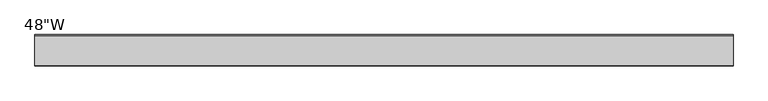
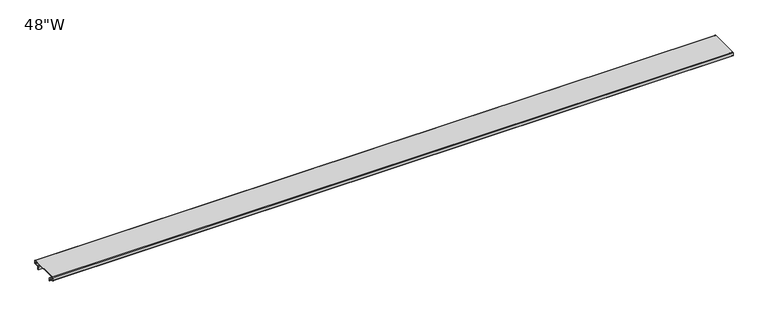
"""IFC4 building model written with IfcOpenShell, lengths in millimetres: furniture geometry."""

import ifcopenshell
import ifcopenshell.guid

model = None  # the IFC model being written
_history = None  # IfcOwnerHistory: only IFC2X3 demands one
_inside = {}  # id of a spatial element -> (the spatial element, [elements in it])
_under = {}  # id of a project, library or spatial element -> (it, [spatial elements below it])
_declared = {}  # id of a project -> (the project, [libraries it declares])
_typed = {}  # id of a type object -> (the type object, [elements of that type])
_made_of = {}  # id of a material, layer set ... -> (it, [elements and type objects made of it])


def new_model(schema):
    """Start an empty IFC model of exactly this schema.

    Asked for "IFC4X3", IfcOpenShell would pick the latest addendum, in which some entities
    have other attributes; the version numbers below select the first issue.
    IFC2X3 requires an IfcOwnerHistory on every rooted entity: one is made here for all.
    """
    global model, _history
    if schema == "IFC4X3":
        model = ifcopenshell.file(schema_version=(4, 3, 0, 0))
    else:
        model = ifcopenshell.file(schema=schema)
    _inside.clear()
    _under.clear()
    _declared.clear()
    _typed.clear()
    _made_of.clear()
    _history = None
    if model.schema == "IFC2X3":
        org = make("IfcOrganization", Name="unknown")
        user = make(
            "IfcPersonAndOrganization",
            ThePerson=make("IfcPerson", FamilyName="unknown"),
            TheOrganization=org,
        )
        app = make(
            "IfcApplication",
            ApplicationDeveloper=org,
            Version="unknown",
            ApplicationFullName="unknown",
            ApplicationIdentifier="unknown",
        )
        _history = make(
            "IfcOwnerHistory",
            OwningUser=user,
            OwningApplication=app,
            ChangeAction="ADDED",
            CreationDate=0,
        )
    return model


def make(cls, **values):
    """One entity of the class cls with the attributes given. An attribute that is None is left unset."""
    return model.create_entity(
        cls, **{name: value for name, value in values.items() if value is not None}
    )


def rooted(cls, **values):
    """An entity with a GlobalId (a new one), such as an element, a storey or a relation."""
    return make(cls, GlobalId=ifcopenshell.guid.new(), OwnerHistory=_history, **values)


def si_unit(unit_type, name, prefix=None):
    """IfcSIUnit, for example si_unit("LENGTHUNIT", "METRE", prefix="MILLI")."""
    return make("IfcSIUnit", UnitType=unit_type, Prefix=prefix, Name=name)


def assignment(units):
    """IfcUnitAssignment: the units of a project."""
    return None if units is None else make("IfcUnitAssignment", Units=units)


def point(xyz):
    """IfcCartesianPoint."""
    return None if xyz is None else make("IfcCartesianPoint", Coordinates=xyz)


def direction(xyz):
    """IfcDirection."""
    return None if xyz is None else make("IfcDirection", DirectionRatios=xyz)


def frame(location, z_axis=None, x_axis=None):
    """IfcAxis2Placement3D, a coordinate frame: its origin and axes. An axis left out is left unset."""
    return make(
        "IfcAxis2Placement3D",
        Location=point(location),
        Axis=direction(z_axis),
        RefDirection=direction(x_axis),
    )


def frame_2d(location, x_axis=None):
    """IfcAxis2Placement2D, a coordinate frame in the plane: its origin and x axis."""
    return make(
        "IfcAxis2Placement2D", Location=point(location), RefDirection=direction(x_axis)
    )


def origin():
    """The frame at (0, 0, 0) with its axes left unset."""
    return frame((0.0, 0.0, 0.0))


def place(relative_to, where):
    """IfcLocalPlacement: puts the frame where relative to a parent placement (None: the world)."""
    return make(
        "IfcLocalPlacement", PlacementRelTo=relative_to, RelativePlacement=where
    )


def context(
    kind, dimensions, precision=None, world=None, true_north=None, identifier=None
):
    """IfcGeometricRepresentationContext, for example the 3D "Model" context."""
    return make(
        "IfcGeometricRepresentationContext",
        ContextIdentifier=identifier,
        ContextType=kind,
        CoordinateSpaceDimension=dimensions,
        Precision=precision,
        WorldCoordinateSystem=world,
        TrueNorth=true_north,
    )


def project(units=None, contexts=None):
    """IfcProject with its units and contexts."""
    return rooted(
        "IfcProject",
        Name="project",
        RepresentationContexts=contexts,
        UnitsInContext=assignment(units),
    )


def spatial(cls, under=None, at=None, **own):
    """A site, building, storey or space (cls), placed at a placement, below another one or the project."""
    s = rooted(cls, ObjectPlacement=at, **own)
    if under is not None:
        _under.setdefault(under.id(), (under, []))[1].append(s)
    return s


def polyline(points):
    """IfcPolyline through the points."""
    return make("IfcPolyline", Points=[point(p) for p in points])


def circle_curve(where, radius):
    """IfcCircle in the frame where."""
    return make("IfcCircle", Position=where, Radius=radius)


def trimmed(basis, trim1, trim2, sense, master):
    """IfcTrimmedCurve: the piece of a basis curve between two trims."""
    return make(
        "IfcTrimmedCurve",
        BasisCurve=basis,
        Trim1=trim1,
        Trim2=trim2,
        SenseAgreement=sense,
        MasterRepresentation=master,
    )


def segment(curve, same_sense, transition):
    """IfcCompositeCurveSegment."""
    return make(
        "IfcCompositeCurveSegment",
        Transition=transition,
        SameSense=same_sense,
        ParentCurve=curve,
    )


def composite_curve(segments, self_intersect=None):
    """IfcCompositeCurve: segments joined end to end."""
    return make("IfcCompositeCurve", Segments=segments, SelfIntersect=self_intersect)


def outline(outer, holes=None, kind="AREA"):
    """IfcArbitraryClosedProfileDef: a profile drawn as a closed curve; with holes, ...WithVoids."""
    if holes is None:
        return make("IfcArbitraryClosedProfileDef", ProfileType=kind, OuterCurve=outer)
    return make(
        "IfcArbitraryProfileDefWithVoids",
        ProfileType=kind,
        OuterCurve=outer,
        InnerCurves=holes,
    )


def extrude(swept, where, along, depth):
    """IfcExtrudedAreaSolid: the profile swept, set in the frame where, extruded along a direction by depth."""
    return make(
        "IfcExtrudedAreaSolid",
        SweptArea=swept,
        Position=where,
        ExtrudedDirection=direction(along),
        Depth=depth,
    )


def shape(context_of_items, identifier, shape_type, items):
    """IfcShapeRepresentation: the items that make up one representation, for example the "Body"."""
    return make(
        "IfcShapeRepresentation",
        ContextOfItems=context_of_items,
        RepresentationIdentifier=identifier,
        RepresentationType=shape_type,
        Items=items,
    )


def source(mapping_origin, context_of_items, identifier, shape_type, items):
    """IfcRepresentationMap: a shape defined once, which mapped items show again and again."""
    return make(
        "IfcRepresentationMap",
        MappingOrigin=mapping_origin,
        MappedRepresentation=shape(context_of_items, identifier, shape_type, items),
    )


def transform(
    local_origin,
    x_axis=None,
    y_axis=None,
    z_axis=None,
    scale=None,
    scale2=None,
    scale3=None,
    uniform=True,
):
    """IfcCartesianTransformationOperator3D, or its non-uniform kind. x_axis, y_axis, z_axis: its Axis1, 2, 3."""
    if uniform:
        return make(
            "IfcCartesianTransformationOperator3D",
            Axis1=direction(x_axis),
            Axis2=direction(y_axis),
            LocalOrigin=point(local_origin),
            Scale=scale,
            Axis3=direction(z_axis),
        )
    return make(
        "IfcCartesianTransformationOperator3DnonUniform",
        Axis1=direction(x_axis),
        Axis2=direction(y_axis),
        LocalOrigin=point(local_origin),
        Scale=scale,
        Axis3=direction(z_axis),
        Scale2=scale2,
        Scale3=scale3,
    )


def mapped(mapping_source, mapping_target):
    """IfcMappedItem: shows the shape of a source again, moved by a transform."""
    return make(
        "IfcMappedItem", MappingSource=mapping_source, MappingTarget=mapping_target
    )


def made_of(thing, what):
    """Note that an element or type object is made of a material, layer set ...; save() writes the relation."""
    if what is not None:
        _made_of.setdefault(what.id(), (what, []))[1].append(thing)
    return thing


def element(
    cls,
    number,
    at=None,
    inside=None,
    cuts=None,
    type_object=None,
    material=None,
    context=None,
    identifier="Body",
    shape_type=None,
    held_by="IfcProductDefinitionShape",
    body=None,
    shapes=None,
    **own,
):
    """One element of the class cls, such as IfcWall. Its Tag is "e" and its number.

    at: its placement. inside: the storey or other place that contains it. cuts: it is an
    opening in that element (IfcRelVoidsElement). A single representation is given by context,
    identifier, shape_type and body (its items); several are given by shapes. held_by: the class
    of the entity that holds the representations. save() writes the other relations.
    """
    e = rooted(cls, Tag="e%d" % number, ObjectPlacement=at, **own)
    if body is not None:
        shapes = [shape(context, identifier, shape_type, body)]
    if shapes is not None:
        e.Representation = make(held_by, Representations=shapes)
    if inside is not None:
        _inside.setdefault(inside.id(), (inside, []))[1].append(e)
    if cuts is not None:
        rooted(
            "IfcRelVoidsElement", RelatingBuildingElement=cuts, RelatedOpeningElement=e
        )
    if type_object is not None:
        _typed.setdefault(type_object.id(), (type_object, []))[1].append(e)
    return made_of(e, material)


def aggregate(whole, parts):
    """IfcRelAggregates: a whole, such as a stair, and the parts it consists of."""
    return rooted("IfcRelAggregates", RelatingObject=whole, RelatedObjects=parts)


def save(model, path):
    """Write the relations noted so far, then the file.

    IfcRelAggregates (storeys below a building ...), IfcRelContainedInSpatialStructure (elements
    in a storey), IfcRelDefinesByType, IfcRelAssociatesMaterial and IfcRelDeclares: one each for
    every whole, place, type object, material and project.
    """
    for whole, parts in _under.values():
        aggregate(whole, parts)
    for where, things in _inside.values():
        rooted(
            "IfcRelContainedInSpatialStructure",
            RelatedElements=things,
            RelatingStructure=where,
        )
    for kind, things in _typed.values():
        rooted("IfcRelDefinesByType", RelatedObjects=things, RelatingType=kind)
    for what, things in _made_of.values():
        rooted("IfcRelAssociatesMaterial", RelatedObjects=things, RelatingMaterial=what)
    for by, libraries in _declared.values():
        rooted("IfcRelDeclares", RelatingContext=by, RelatedDefinitions=libraries)
    model.write(path)


def furniture_5fd61c0f(model_context):
    return source(origin(), model_context, "Body", "SweptSolid", [
        extrude(outline(composite_curve([segment(trimmed(circle_curve(frame_2d((2.4497237, 9.9470946)), 0.5955237), [point((2.4497237, 10.5426182))], [point((1.8542, 9.9470946))], True, "CARTESIAN"), True, "CONTINUOUS"), segment(polyline([(1.8542, 9.9470946), (1.8542, 5.3708002)]), True, "CONTINUOUS"), segment(trimmed(circle_curve(frame_2d((2.3973822, 5.3708002)), 0.5431822), [point((1.8542, 5.3708002))], [point((2.3973822, 4.827618))], True, "CARTESIAN"), True, "CONTINUOUS"), segment(polyline([(2.3973822, 4.827618), (10.1070965, 4.827618)]), True, "CONTINUOUS"), segment(trimmed(circle_curve(frame_2d((10.1070965, 3.6880568)), 1.1395612), [point((10.1070965, 4.827618))], [point((11.2466577, 3.6880568))], False, "CARTESIAN"), True, "CONTINUOUS"), segment(polyline([(11.2466577, 3.6880568), (11.2466577, -1.2810822), (10.4648, -1.2810822), (10.4648, 3.5900342)]), True, "CONTINUOUS"), segment(trimmed(circle_curve(frame_2d((9.9237459, 3.5900342)), 0.5410541), [point((10.4648, 3.5900342))], [point((9.9271812, 4.1310774))], True, "CARTESIAN"), True, "CONTINUOUS"), segment(polyline([(9.9271812, 4.1310774), (2.2105641, 4.1800742)]), True, "CONTINUOUS"), segment(trimmed(circle_curve(frame_2d((2.21698, 5.1905339)), 1.01048), [point((2.2105641, 4.1800742))], [point((1.2065, 5.1905339))], False, "CARTESIAN"), True, "CONTINUOUS"), segment(polyline([(1.2065, 5.1905339), (1.2065, 10.153859)]), True, "CONTINUOUS"), segment(trimmed(circle_curve(frame_2d((2.2429588, 10.153859)), 1.0364588), [point((1.2065, 10.153859))], [point((2.2429588, 11.1903178))], False, "CARTESIAN"), True, "CONTINUOUS"), segment(polyline([(2.2429588, 11.1903178), (54.9025429, 11.1903178)]), True, "CONTINUOUS"), segment(trimmed(circle_curve(frame_2d((54.9025429, 10.1493596)), 1.0409582), [point((54.9025429, 11.1903178))], [point((55.9435012, 10.1493596))], False, "CARTESIAN"), True, "CONTINUOUS"), segment(polyline([(55.9435012, 10.1493596), (55.9435012, 5.1927443)]), True, "CONTINUOUS"), segment(trimmed(circle_curve(frame_2d((54.9306746, 5.1927443)), 1.0128265), [point((55.9435012, 5.1927443))], [point((54.9306746, 4.1799178))], False, "CARTESIAN"), True, "CONTINUOUS"), segment(polyline([(54.9306746, 4.1799178), (47.2463687, 4.1799178)]), True, "CONTINUOUS"), segment(trimmed(circle_curve(frame_2d((47.2463687, 3.6666936)), 0.5132242), [point((47.2463687, 4.1799178))], [point((46.7331686, 3.6716641))], True, "CARTESIAN"), True, "CONTINUOUS"), segment(polyline([(46.7331686, 3.6716641), (46.6852, -1.2810822), (45.8995796, -1.2810822), (45.8995796, 3.6413082)]), True, "CONTINUOUS"), segment(trimmed(circle_curve(frame_2d((47.0858895, 3.6413082)), 1.1863098), [point((45.8995796, 3.6413082))], [point((47.0858895, 4.827618))], False, "CARTESIAN"), True, "CONTINUOUS"), segment(polyline([(47.0858895, 4.827618), (54.7074007, 4.827618)]), True, "CONTINUOUS"), segment(trimmed(circle_curve(frame_2d((54.7074007, 5.3649738)), 0.5373558), [point((54.7074007, 4.827618))], [point((55.2447566, 5.3649738))], True, "CARTESIAN"), True, "CONTINUOUS"), segment(polyline([(55.2447566, 5.3649738), (55.2447566, 9.9453493)]), True, "CONTINUOUS"), segment(trimmed(circle_curve(frame_2d((54.6474876, 9.9453493)), 0.597269), [point((55.2447566, 9.9453493))], [point((54.6474876, 10.5426182))], True, "CARTESIAN"), True, "CONTINUOUS"), segment(polyline([(54.6474876, 10.5426182), (2.4497237, 10.5426182)]), True, "CONTINUOUS")], self_intersect=False)), frame((-609.6, 0.0, 0.0), z_axis=(1.0, 0.0, 0.0), x_axis=(0.0, 1.0, 0.0)), (0.0, 0.0, 1.0), 1219.2),
    ])


if __name__ == "__main__":
    model = new_model("IFC4")
    model_context = context("Model", 3, world=origin())
    ifc_project = project(units=[si_unit("LENGTHUNIT", "METRE", prefix="MILLI")], contexts=[model_context])
    site = spatial("IfcSite", under=ifc_project)
    building = spatial("IfcBuilding", under=site)
    placement = place(None, origin())
    furniture_shape = furniture_5fd61c0f(model_context)
    element("IfcFurniture", 1, ObjectType="HON - Accelerate - Top Cap : 48\"W", at=placement, inside=building, context=model_context, shape_type="MappedRepresentation", body=[
        mapped(furniture_shape, transform((0.0, 0.0, 0.0), x_axis=(1.0, 0.0, 0.0), y_axis=(0.0, 1.0, 0.0), z_axis=(0.0, 0.0, 1.0))),
    ])
    save(model, "model.ifc")
